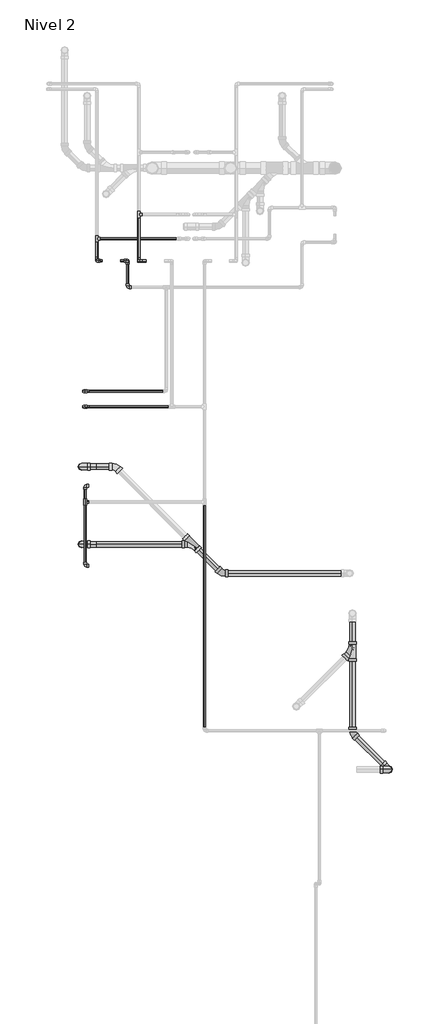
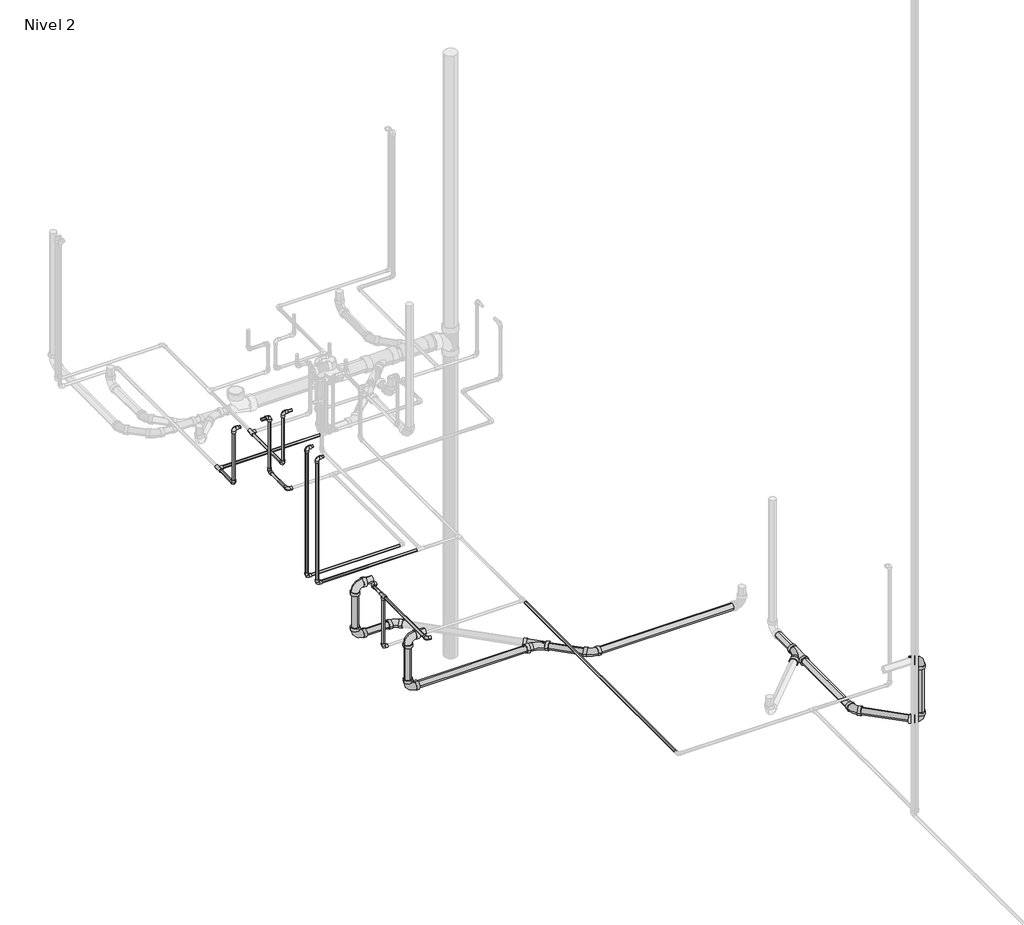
# One storey, part 6 of 9: 32 pipe segments, 28 pipe fittings.
"""IFC4 building model written with IfcOpenShell, lengths in millimetres."""

from ifc_helpers import new_model, si_unit, point, frame, frame_2d, origin, place, context, project, spatial, circle_curve, trimmed, segment, composite_curve, outline, extrude, transform, mapped, element, save
from components import pipe_fitting_ab418b84, pipe_fitting_0163322b, m_codo_pvc_serie_40_9ad74631, m_codo_pvc_serie_40_dwv1_5c0ec739, m_codo_pvc_serie_40_dwv1_6f1a2495

model = new_model("IFC4")

# Units and contexts
model_context = context("Model", 3, world=origin())
ifc_project = project(units=[si_unit("LENGTHUNIT", "METRE", prefix="MILLI")], contexts=[model_context])

# Site, building, storey
site = spatial("IfcSite", under=ifc_project)
building = spatial("IfcBuilding", under=site)
storey = spatial("IfcBuildingStorey", under=building, Name="Nivel 2", Elevation=2800.0)

# Pipe fittings
placement = place(None, origin())
pipe_fitting_shape = pipe_fitting_ab418b84(model_context)
element("IfcPipeFitting", 1, ObjectType="M_Te - PVC - Serie 40 : Estándar", at=placement, inside=storey, context=model_context, shape_type="MappedRepresentation", body=[
    mapped(pipe_fitting_shape, transform((3414.5674476, 13135.047678, 3200.0), x_axis=(0.0, -1.0, 0.0), y_axis=(0.0, 0.0, 1.0), z_axis=(-1.0, 0.0, 0.0))),
])
element("IfcPipeFitting", 2, ObjectType="M_Te - PVC - Serie 40 : Estándar", at=placement, inside=storey, context=model_context, shape_type="MappedRepresentation", body=[
    mapped(pipe_fitting_shape, transform((3940.052369, 15948.3784167, 2750.0), x_axis=(0.0, 1.0, 0.0), y_axis=(-1.0, 0.0, 0.0), z_axis=(0.0, 0.0, 1.0))),
])
element("IfcPipeFitting", 3, ObjectType="M_Te - PVC - Serie 40 : Estándar", at=placement, inside=storey, context=model_context, shape_type="MappedRepresentation", body=[
    mapped(pipe_fitting_shape, transform((3529.5674476, 15711.6215833, 2720.0), x_axis=(0.0, -1.0, 0.0), y_axis=(-1.0, 0.0, 0.0), z_axis=(0.0, 0.0, -1.0))),
])
pipe_fitting_2_shape = pipe_fitting_0163322b(model_context)
element("IfcPipeFitting", 4, ObjectType="M_Sanitario con te de reducción - PVC - Serie 40 - DWV : Estándar", at=placement, inside=storey, context=model_context, shape_type="MappedRepresentation", body=[
    mapped(pipe_fitting_2_shape, transform((6034.2551231, 11685.3518772, 2650.0), x_axis=(0.0, -1.0, 0.0), y_axis=(1.0, 0.0, 0.0), z_axis=(0.0, 0.0, 1.0))),
])
element("IfcPipeFitting", 5, ObjectType="M_Sanitario con te de reducción - PVC - Serie 40 - DWV : Estándar", at=placement, inside=storey, context=model_context, shape_type="MappedRepresentation", body=[
    mapped(pipe_fitting_2_shape, transform((4471.6264357, 12721.1279626, 2650.0), x_axis=(-0.7071067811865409, 0.7071067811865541, 0.0), y_axis=(0.7071067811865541, 0.7071067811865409, 0.0), z_axis=(0.0, 0.0, -1.0))),
])
m_codo_pvc_serie_40_shape = m_codo_pvc_serie_40_9ad74631(model_context)
element("IfcPipeFitting", 6, ObjectType="M_Codo - PVC - Serie 40 : Estándar", at=placement, inside=storey, context=model_context, shape_type="MappedRepresentation", body=[
    mapped(m_codo_pvc_serie_40_shape, transform((3414.5674476, 13135.047678, 2750.0), x_axis=(-1.0, 0.0, 0.0), y_axis=(0.0, 0.0, 1.0), z_axis=(0.0, 1.0, 0.0))),
])
element("IfcPipeFitting", 7, ObjectType="M_Codo - PVC - Serie 40 : Estándar", at=placement, inside=storey, context=model_context, shape_type="MappedRepresentation", body=[
    mapped(m_codo_pvc_serie_40_shape, transform((3414.5674476, 13295.047678, 3200.0), x_axis=(-1.0, 0.0, 0.0), y_axis=(0.0, -1.0, 0.0), z_axis=(0.0, 0.0, 1.0))),
])
element("IfcPipeFitting", 8, ObjectType="M_Codo - PVC - Serie 40 : Estándar", at=placement, inside=storey, context=model_context, shape_type="MappedRepresentation", body=[
    mapped(m_codo_pvc_serie_40_shape, transform((3414.5674476, 12509.5875218, 3200.0), x_axis=(0.0, -1.0, 0.0), y_axis=(1.0, 0.0, 0.0), z_axis=(0.0, 0.0, 1.0))),
])
element("IfcPipeFitting", 9, ObjectType="M_Codo - PVC - Serie 40 : Estándar", at=placement, inside=storey, context=model_context, shape_type="MappedRepresentation", body=[
    mapped(m_codo_pvc_serie_40_shape, transform((3940.052369, 15493.3784167, 2750.0), x_axis=(0.0, -1.0, 0.0), y_axis=(0.0, 0.0, 1.0), z_axis=(-1.0, 0.0, 0.0))),
])
element("IfcPipeFitting", 10, ObjectType="M_Codo - PVC - Serie 40 : Estándar", at=placement, inside=storey, context=model_context, shape_type="MappedRepresentation", body=[
    mapped(m_codo_pvc_serie_40_shape, transform((3940.052369, 15493.3784167, 3200.0), x_axis=(0.0, 0.0, 1.0), y_axis=(1.0, 0.0, 0.0), z_axis=(0.0, 1.0, 0.0))),
])
element("IfcPipeFitting", 11, ObjectType="M_Codo - PVC - Serie 40 : Estándar", at=placement, inside=storey, context=model_context, shape_type="MappedRepresentation", body=[
    mapped(m_codo_pvc_serie_40_shape, transform((3829.5674476, 15236.3878958, 2720.0), x_axis=(0.0, -1.0, 0.0), y_axis=(1.0, 0.0, 0.0), z_axis=(0.0, 0.0, 1.0))),
])
element("IfcPipeFitting", 12, ObjectType="M_Codo - PVC - Serie 40 : Estándar", at=placement, inside=storey, context=model_context, shape_type="MappedRepresentation", body=[
    mapped(m_codo_pvc_serie_40_shape, transform((3829.5674476, 15496.3878958, 2720.0), x_axis=(0.0, 1.0, 0.0), y_axis=(0.0, 0.0, 1.0), z_axis=(1.0, 0.0, 0.0))),
])
element("IfcPipeFitting", 13, ObjectType="M_Codo - PVC - Serie 40 : Estándar", at=placement, inside=storey, context=model_context, shape_type="MappedRepresentation", body=[
    mapped(m_codo_pvc_serie_40_shape, transform((3829.5674476, 15496.3878958, 3200.0), x_axis=(0.0, 0.0, 1.0), y_axis=(-1.0, 0.0, 0.0), z_axis=(0.0, -1.0, 0.0))),
])
element("IfcPipeFitting", 14, ObjectType="M_Codo - PVC - Serie 40 : Estándar", at=placement, inside=storey, context=model_context, shape_type="MappedRepresentation", body=[
    mapped(m_codo_pvc_serie_40_shape, transform((3529.5674476, 15496.3878958, 3200.0), x_axis=(-1.0, 0.0, 0.0), y_axis=(0.0, 0.0, -1.0), z_axis=(0.0, -1.0, 0.0))),
])
element("IfcPipeFitting", 15, ObjectType="M_Codo - PVC - Serie 40 : Estándar", at=placement, inside=storey, context=model_context, shape_type="MappedRepresentation", body=[
    mapped(m_codo_pvc_serie_40_shape, transform((3529.5674476, 15496.3878958, 2720.0), x_axis=(0.0, 0.0, -1.0), y_axis=(0.0, 1.0, 0.0), z_axis=(1.0, 0.0, 0.0))),
])
element("IfcPipeFitting", 16, ObjectType="M_Codo - PVC - Serie 40 : Estándar", at=placement, inside=storey, context=model_context, shape_type="MappedRepresentation", body=[
    mapped(m_codo_pvc_serie_40_shape, transform((3401.779854, 14218.3044589, 3850.0), x_axis=(-1.0, 0.0, 0.0), y_axis=(0.0, 0.0, -1.0), z_axis=(0.0, -1.0, 0.0))),
])
element("IfcPipeFitting", 17, ObjectType="M_Codo - PVC - Serie 40 : Estándar", at=placement, inside=storey, context=model_context, shape_type="MappedRepresentation", body=[
    mapped(m_codo_pvc_serie_40_shape, transform((3401.779854, 14068.3044589, 3850.0), x_axis=(-1.0, 0.0, 0.0), y_axis=(0.0, 0.0, -1.0), z_axis=(0.0, -1.0, 0.0))),
])
element("IfcPipeFitting", 18, ObjectType="M_Codo - PVC - Serie 40 : Estándar", at=placement, inside=storey, context=model_context, shape_type="MappedRepresentation", body=[
    mapped(m_codo_pvc_serie_40_shape, transform((3401.779854, 14218.3044589, 2720.0), x_axis=(0.0, 0.0, -1.0), y_axis=(1.0, 0.0, 0.0), z_axis=(0.0, -1.0, 0.0))),
])
element("IfcPipeFitting", 19, ObjectType="M_Codo - PVC - Serie 40 : Estándar", at=placement, inside=storey, context=model_context, shape_type="MappedRepresentation", body=[
    mapped(m_codo_pvc_serie_40_shape, transform((3401.779854, 14068.3044589, 2750.0), x_axis=(0.0, 0.0, -1.0), y_axis=(1.0, 0.0, 0.0), z_axis=(0.0, -1.0, 0.0))),
])
m_codo_pvc_serie_40_dwv1_shape = m_codo_pvc_serie_40_dwv1_5c0ec739(model_context)
element("IfcPipeFitting", 20, ObjectType="M_Codo - PVC - Serie 40 - DWV1 : Estándar 2", at=placement, inside=storey, context=model_context, shape_type="MappedRepresentation", body=[
    mapped(m_codo_pvc_serie_40_dwv1_shape, transform((6387.7966771, 10516.9594307, 3200.0), x_axis=(1.0, 0.0, 0.0), y_axis=(0.0, 0.0, -1.0), z_axis=(0.0, 1.0, 0.0))),
])
element("IfcPipeFitting", 21, ObjectType="M_Codo - PVC - Serie 40 - DWV1 : Estándar 2", at=placement, inside=storey, context=model_context, shape_type="MappedRepresentation", body=[
    mapped(m_codo_pvc_serie_40_dwv1_shape, transform((6387.7966771, 10516.9594307, 2650.0), x_axis=(0.0, 0.0, -1.0), y_axis=(-0.7071067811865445, 0.7071067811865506, 0.0), z_axis=(0.7071067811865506, 0.7071067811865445, 0.0))),
])
element("IfcPipeFitting", 22, ObjectType="M_Codo - PVC - Serie 40 - DWV1 : Estándar 2", at=placement, inside=storey, context=model_context, shape_type="MappedRepresentation", body=[
    mapped(m_codo_pvc_serie_40_dwv1_shape, transform((3380.4956461, 13481.1279626, 3100.0), x_axis=(-1.0, 0.0, 0.0), y_axis=(0.0, 0.0, -1.0), z_axis=(0.0, -1.0, 0.0))),
])
element("IfcPipeFitting", 23, ObjectType="M_Codo - PVC - Serie 40 - DWV1 : Estándar 2", at=placement, inside=storey, context=model_context, shape_type="MappedRepresentation", body=[
    mapped(m_codo_pvc_serie_40_dwv1_shape, transform((3380.4956461, 13481.1279626, 2650.0), x_axis=(0.0, 0.0, -1.0), y_axis=(1.0, 0.0, 0.0), z_axis=(0.0, -1.0, 0.0))),
])
element("IfcPipeFitting", 24, ObjectType="M_Codo - PVC - Serie 40 - DWV1 : Estándar 2", at=placement, inside=storey, context=model_context, shape_type="MappedRepresentation", body=[
    mapped(m_codo_pvc_serie_40_dwv1_shape, transform((3380.4956461, 12721.1279626, 3100.0), x_axis=(-1.0, 0.0, 0.0), y_axis=(0.0, 0.0, -1.0), z_axis=(0.0, -1.0, 0.0))),
])
element("IfcPipeFitting", 25, ObjectType="M_Codo - PVC - Serie 40 - DWV1 : Estándar 2", at=placement, inside=storey, context=model_context, shape_type="MappedRepresentation", body=[
    mapped(m_codo_pvc_serie_40_dwv1_shape, transform((3380.4956461, 12721.1279626, 2650.0), x_axis=(0.0, 0.0, -1.0), y_axis=(1.0, 0.0, 0.0), z_axis=(0.0, -1.0, 0.0))),
])
m_codo_pvc_serie_40_dwv1_2_shape = m_codo_pvc_serie_40_dwv1_6f1a2495(model_context)
element("IfcPipeFitting", 26, ObjectType="M_Codo - PVC - Serie 40 - DWV1 : Estándar 2", at=placement, inside=storey, context=model_context, shape_type="MappedRepresentation", body=[
    mapped(m_codo_pvc_serie_40_dwv1_2_shape, transform((6034.2551231, 10870.5009847, 2650.0), x_axis=(0.0, -1.0, 0.0), y_axis=(1.0, 0.0, 0.0), z_axis=(0.0, 0.0, 1.0))),
])
element("IfcPipeFitting", 27, ObjectType="M_Codo - PVC - Serie 40 - DWV1 : Estándar 2", at=placement, inside=storey, context=model_context, shape_type="MappedRepresentation", body=[
    mapped(m_codo_pvc_serie_40_dwv1_2_shape, transform((3711.6264357, 13481.1279626, 2650.0), x_axis=(-0.7071067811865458, 0.7071067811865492, 0.0), y_axis=(-0.7071067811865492, -0.7071067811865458, 0.0), z_axis=(0.0, 0.0, 1.0))),
])
element("IfcPipeFitting", 28, ObjectType="M_Codo - PVC - Serie 40 - DWV1 : Estándar 2", at=placement, inside=storey, context=model_context, shape_type="MappedRepresentation", body=[
    mapped(m_codo_pvc_serie_40_dwv1_2_shape, transform((4755.8120302, 12436.942368, 2650.0), x_axis=(0.7071067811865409, -0.7071067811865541, 0.0), y_axis=(0.7071067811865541, 0.7071067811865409, 0.0), z_axis=(0.0, 0.0, 1.0))),
])

# Pipe segments
element("IfcPipeSegment", 29, ObjectType="Tuberia PVC Agua Fria", at=placement, inside=storey, context=model_context, shape_type="SweptSolid", body=[
    extrude(outline(composite_curve([segment(trimmed(circle_curve(frame_2d((2750.0, 4584.5674476)), 10.31875), [point((2750.0, 4594.8861976))], [point((2760.31875, 4584.5674476))], False, "CARTESIAN"), True, "CONTINUOUS"), segment(trimmed(circle_curve(frame_2d((2750.0, 4584.5674476)), 10.31875), [point((2760.31875, 4584.5674476))], [point((2750.0, 4574.2486976))], False, "CARTESIAN"), True, "CONTINUOUS"), segment(trimmed(circle_curve(frame_2d((2750.0, 4584.5674476)), 10.31875), [point((2750.0, 4574.2486976))], [point((2739.68125, 4584.5674476))], False, "CARTESIAN"), True, "CONTINUOUS"), segment(trimmed(circle_curve(frame_2d((2750.0, 4584.5674476)), 10.31875), [point((2739.68125, 4584.5674476))], [point((2750.0, 4594.8861976))], False, "CARTESIAN"), True, "CONTINUOUS")], self_intersect=False)), frame((0.0, 10930.4191394, 0.0), z_axis=(0.0, 1.0, 0.0), x_axis=(0.0, 0.0, 1.0)), (0.0, 0.0, 1.0), 2174.1683824),
])
element("IfcPipeSegment", 30, ObjectType="Tuberia PVC Agua Fria", at=placement, inside=storey, context=model_context, shape_type="SweptSolid", body=[
    extrude(outline(composite_curve([segment(trimmed(circle_curve(frame_2d((3200.0, 3414.5674476)), 10.31875), [point((3200.0, 3424.8861976))], [point((3210.31875, 3414.5674476))], False, "CARTESIAN"), True, "CONTINUOUS"), segment(trimmed(circle_curve(frame_2d((3200.0, 3414.5674476)), 10.31875), [point((3210.31875, 3414.5674476))], [point((3200.0, 3404.2486976))], False, "CARTESIAN"), True, "CONTINUOUS"), segment(trimmed(circle_curve(frame_2d((3200.0, 3414.5674476)), 10.31875), [point((3200.0, 3404.2486976))], [point((3189.68125, 3414.5674476))], False, "CARTESIAN"), True, "CONTINUOUS"), segment(trimmed(circle_curve(frame_2d((3200.0, 3414.5674476)), 10.31875), [point((3189.68125, 3414.5674476))], [point((3200.0, 3424.8861976))], False, "CARTESIAN"), True, "CONTINUOUS")], self_intersect=False)), frame((0.0, 13165.5078343, 0.0), z_axis=(0.0, 1.0, 0.0), x_axis=(0.0, 0.0, 1.0)), (0.0, 0.0, 1.0), 96.1388438),
])
element("IfcPipeSegment", 31, ObjectType="Tuberia PVC Agua Fria", at=placement, inside=storey, context=model_context, shape_type="SweptSolid", body=[
    extrude(outline(composite_curve([segment(trimmed(circle_curve(frame_2d((3414.5674476, 13135.047678)), 10.31875), [point((3404.2486976, 13135.047678))], [point((3414.5674476, 13145.366428))], False, "CARTESIAN"), True, "CONTINUOUS"), segment(trimmed(circle_curve(frame_2d((3414.5674476, 13135.047678)), 10.31875), [point((3414.5674476, 13145.366428))], [point((3424.8861976, 13135.047678))], False, "CARTESIAN"), True, "CONTINUOUS"), segment(trimmed(circle_curve(frame_2d((3414.5674476, 13135.047678)), 10.31875), [point((3424.8861976, 13135.047678))], [point((3414.5674476, 13124.728928))], False, "CARTESIAN"), True, "CONTINUOUS"), segment(trimmed(circle_curve(frame_2d((3414.5674476, 13135.047678)), 10.31875), [point((3414.5674476, 13124.728928))], [point((3404.2486976, 13135.047678))], False, "CARTESIAN"), True, "CONTINUOUS")], self_intersect=False)), frame((0.0, 0.0, 2783.401), z_axis=(0.0, 0.0, 1.0), x_axis=(1.0, 0.0, 0.0)), (0.0, 0.0, 1.0), 386.1388438),
])
element("IfcPipeSegment", 32, ObjectType="Tuberia PVC Agua Fria", at=placement, inside=storey, context=model_context, shape_type="SweptSolid", body=[
    extrude(outline(composite_curve([segment(trimmed(circle_curve(frame_2d((3200.0, 3414.5674476)), 10.31875), [point((3200.0, 3404.2486976))], [point((3189.68125, 3414.5674476))], False, "CARTESIAN"), True, "CONTINUOUS"), segment(trimmed(circle_curve(frame_2d((3200.0, 3414.5674476)), 10.31875), [point((3189.68125, 3414.5674476))], [point((3200.0, 3424.8861976))], False, "CARTESIAN"), True, "CONTINUOUS"), segment(trimmed(circle_curve(frame_2d((3200.0, 3414.5674476)), 10.31875), [point((3200.0, 3424.8861976))], [point((3210.31875, 3414.5674476))], False, "CARTESIAN"), True, "CONTINUOUS"), segment(trimmed(circle_curve(frame_2d((3200.0, 3414.5674476)), 10.31875), [point((3210.31875, 3414.5674476))], [point((3200.0, 3404.2486976))], False, "CARTESIAN"), True, "CONTINUOUS")], self_intersect=False)), frame((0.0, 12542.9885218, 0.0), z_axis=(0.0, 1.0, 0.0), x_axis=(0.0, 0.0, 1.0)), (0.0, 0.0, 1.0), 561.599),
])
element("IfcPipeSegment", 33, ObjectType="Tuberia PVC Agua Fria", at=placement, inside=storey, context=model_context, shape_type="SweptSolid", body=[
    extrude(outline(composite_curve([segment(trimmed(circle_curve(frame_2d((2750.0, 3940.052369)), 10.31875), [point((2750.0, 3929.733619))], [point((2739.68125, 3940.052369))], False, "CARTESIAN"), True, "CONTINUOUS"), segment(trimmed(circle_curve(frame_2d((2750.0, 3940.052369)), 10.31875), [point((2739.68125, 3940.052369))], [point((2750.0, 3950.371119))], False, "CARTESIAN"), True, "CONTINUOUS"), segment(trimmed(circle_curve(frame_2d((2750.0, 3940.052369)), 10.31875), [point((2750.0, 3950.371119))], [point((2760.31875, 3940.052369))], False, "CARTESIAN"), True, "CONTINUOUS"), segment(trimmed(circle_curve(frame_2d((2750.0, 3940.052369)), 10.31875), [point((2760.31875, 3940.052369))], [point((2750.0, 3929.733619))], False, "CARTESIAN"), True, "CONTINUOUS")], self_intersect=False)), frame((0.0, 15526.7794167, 0.0), z_axis=(0.0, 1.0, 0.0), x_axis=(0.0, 0.0, 1.0)), (0.0, 0.0, 1.0), 391.1388438),
])
element("IfcPipeSegment", 34, ObjectType="Tuberia PVC Agua Fria", at=placement, inside=storey, context=model_context, shape_type="SweptSolid", body=[
    extrude(outline(composite_curve([segment(trimmed(circle_curve(frame_2d((3940.052369, 15493.3784167)), 10.31875), [point((3929.733619, 15493.3784167))], [point((3940.052369, 15503.6971667))], False, "CARTESIAN"), True, "CONTINUOUS"), segment(trimmed(circle_curve(frame_2d((3940.052369, 15493.3784167)), 10.31875), [point((3940.052369, 15503.6971667))], [point((3950.371119, 15493.3784167))], False, "CARTESIAN"), True, "CONTINUOUS"), segment(trimmed(circle_curve(frame_2d((3940.052369, 15493.3784167)), 10.31875), [point((3950.371119, 15493.3784167))], [point((3940.052369, 15483.0596667))], False, "CARTESIAN"), True, "CONTINUOUS"), segment(trimmed(circle_curve(frame_2d((3940.052369, 15493.3784167)), 10.31875), [point((3940.052369, 15483.0596667))], [point((3929.733619, 15493.3784167))], False, "CARTESIAN"), True, "CONTINUOUS")], self_intersect=False)), frame((0.0, 0.0, 2783.401), z_axis=(0.0, 0.0, 1.0), x_axis=(1.0, 0.0, 0.0)), (0.0, 0.0, 1.0), 383.198),
])
element("IfcPipeSegment", 35, ObjectType="Tuberia PVC Agua Fria", at=placement, inside=storey, context=model_context, shape_type="SweptSolid", body=[
    extrude(outline(composite_curve([segment(trimmed(circle_curve(frame_2d((15493.3784167, 3200.0)), 10.31875), [point((15483.0596667, 3200.0))], [point((15493.3784167, 3210.31875))], False, "CARTESIAN"), True, "CONTINUOUS"), segment(trimmed(circle_curve(frame_2d((15493.3784167, 3200.0)), 10.31875), [point((15493.3784167, 3210.31875))], [point((15503.6971667, 3200.0))], False, "CARTESIAN"), True, "CONTINUOUS"), segment(trimmed(circle_curve(frame_2d((15493.3784167, 3200.0)), 10.31875), [point((15503.6971667, 3200.0))], [point((15493.3784167, 3189.68125))], False, "CARTESIAN"), True, "CONTINUOUS"), segment(trimmed(circle_curve(frame_2d((15493.3784167, 3200.0)), 10.31875), [point((15493.3784167, 3189.68125))], [point((15483.0596667, 3200.0))], False, "CARTESIAN"), True, "CONTINUOUS")], self_intersect=False)), frame((3973.453369, 0.0, 0.0), z_axis=(1.0, 0.0, 0.0), x_axis=(0.0, 1.0, 0.0)), (0.0, 0.0, 1.0), 39.3897748),
])
element("IfcPipeSegment", 36, ObjectType="Tuberia PVC Agua Fria", at=placement, inside=storey, context=model_context, shape_type="SweptSolid", body=[
    extrude(outline(composite_curve([segment(trimmed(circle_curve(frame_2d((14068.3044589, 3850.0)), 10.31875), [point((14078.6232089, 3850.0))], [point((14068.3044589, 3839.68125))], False, "CARTESIAN"), True, "CONTINUOUS"), segment(trimmed(circle_curve(frame_2d((14068.3044589, 3850.0)), 10.31875), [point((14068.3044589, 3839.68125))], [point((14057.9857089, 3850.0))], False, "CARTESIAN"), True, "CONTINUOUS"), segment(trimmed(circle_curve(frame_2d((14068.3044589, 3850.0)), 10.31875), [point((14057.9857089, 3850.0))], [point((14068.3044589, 3860.31875))], False, "CARTESIAN"), True, "CONTINUOUS"), segment(trimmed(circle_curve(frame_2d((14068.3044589, 3850.0)), 10.31875), [point((14068.3044589, 3860.31875))], [point((14078.6232089, 3850.0))], False, "CARTESIAN"), True, "CONTINUOUS")], self_intersect=False)), frame((3435.180854, 0.0, 0.0), z_axis=(1.0, 0.0, 0.0), x_axis=(0.0, 1.0, 0.0)), (0.0, 0.0, 1.0), 17.224),
])
element("IfcPipeSegment", 37, ObjectType="Tuberia PVC Agua Fria", at=placement, inside=storey, context=model_context, shape_type="SweptSolid", body=[
    extrude(outline(composite_curve([segment(trimmed(circle_curve(frame_2d((14068.3044589, 2750.0)), 10.31875), [point((14078.6232089, 2750.0))], [point((14068.3044589, 2739.68125))], False, "CARTESIAN"), True, "CONTINUOUS"), segment(trimmed(circle_curve(frame_2d((14068.3044589, 2750.0)), 10.31875), [point((14068.3044589, 2739.68125))], [point((14057.9857089, 2750.0))], False, "CARTESIAN"), True, "CONTINUOUS"), segment(trimmed(circle_curve(frame_2d((14068.3044589, 2750.0)), 10.31875), [point((14057.9857089, 2750.0))], [point((14068.3044589, 2760.31875))], False, "CARTESIAN"), True, "CONTINUOUS"), segment(trimmed(circle_curve(frame_2d((14068.3044589, 2750.0)), 10.31875), [point((14068.3044589, 2760.31875))], [point((14078.6232089, 2750.0))], False, "CARTESIAN"), True, "CONTINUOUS")], self_intersect=False)), frame((3435.180854, 0.0, 0.0), z_axis=(1.0, 0.0, 0.0), x_axis=(0.0, 1.0, 0.0)), (0.0, 0.0, 1.0), 797.9929083),
])
element("IfcPipeSegment", 38, ObjectType="Tuberia PVC Agua Fria", at=placement, inside=storey, context=model_context, shape_type="SweptSolid", body=[
    extrude(outline(composite_curve([segment(trimmed(circle_curve(frame_2d((3401.779854, 14068.3044589)), 10.31875), [point((3412.098604, 14068.3044589))], [point((3401.779854, 14057.9857089))], False, "CARTESIAN"), True, "CONTINUOUS"), segment(trimmed(circle_curve(frame_2d((3401.779854, 14068.3044589)), 10.31875), [point((3401.779854, 14057.9857089))], [point((3391.461104, 14068.3044589))], False, "CARTESIAN"), True, "CONTINUOUS"), segment(trimmed(circle_curve(frame_2d((3401.779854, 14068.3044589)), 10.31875), [point((3391.461104, 14068.3044589))], [point((3401.779854, 14078.6232089))], False, "CARTESIAN"), True, "CONTINUOUS"), segment(trimmed(circle_curve(frame_2d((3401.779854, 14068.3044589)), 10.31875), [point((3401.779854, 14078.6232089))], [point((3412.098604, 14068.3044589))], False, "CARTESIAN"), True, "CONTINUOUS")], self_intersect=False)), frame((0.0, 0.0, 2783.401), z_axis=(0.0, 0.0, 1.0), x_axis=(1.0, 0.0, 0.0)), (0.0, 0.0, 1.0), 1033.198),
])
element("IfcPipeSegment", 39, ObjectType="Tuberia PVC Agua Caliente", at=placement, inside=storey, context=model_context, shape_type="SweptSolid", body=[
    extrude(outline(composite_curve([segment(trimmed(circle_curve(frame_2d((2720.0, 3829.5674476)), 10.31875), [point((2720.0, 3839.8861976))], [point((2730.31875, 3829.5674476))], False, "CARTESIAN"), True, "CONTINUOUS"), segment(trimmed(circle_curve(frame_2d((2720.0, 3829.5674476)), 10.31875), [point((2730.31875, 3829.5674476))], [point((2720.0, 3819.2486976))], False, "CARTESIAN"), True, "CONTINUOUS"), segment(trimmed(circle_curve(frame_2d((2720.0, 3829.5674476)), 10.31875), [point((2720.0, 3819.2486976))], [point((2709.68125, 3829.5674476))], False, "CARTESIAN"), True, "CONTINUOUS"), segment(trimmed(circle_curve(frame_2d((2720.0, 3829.5674476)), 10.31875), [point((2709.68125, 3829.5674476))], [point((2720.0, 3839.8861976))], False, "CARTESIAN"), True, "CONTINUOUS")], self_intersect=False)), frame((0.0, 15269.7888958, 0.0), z_axis=(0.0, 1.0, 0.0), x_axis=(0.0, 0.0, 1.0)), (0.0, 0.0, 1.0), 193.198),
])
element("IfcPipeSegment", 40, ObjectType="Tuberia PVC Agua Caliente", at=placement, inside=storey, context=model_context, shape_type="SweptSolid", body=[
    extrude(outline(composite_curve([segment(trimmed(circle_curve(frame_2d((15496.3878958, 3200.0)), 10.31875), [point((15506.7066458, 3200.0))], [point((15496.3878958, 3189.68125))], False, "CARTESIAN"), True, "CONTINUOUS"), segment(trimmed(circle_curve(frame_2d((15496.3878958, 3200.0)), 10.31875), [point((15496.3878958, 3189.68125))], [point((15486.0691458, 3200.0))], False, "CARTESIAN"), True, "CONTINUOUS"), segment(trimmed(circle_curve(frame_2d((15496.3878958, 3200.0)), 10.31875), [point((15486.0691458, 3200.0))], [point((15496.3878958, 3210.31875))], False, "CARTESIAN"), True, "CONTINUOUS"), segment(trimmed(circle_curve(frame_2d((15496.3878958, 3200.0)), 10.31875), [point((15496.3878958, 3210.31875))], [point((15506.7066458, 3200.0))], False, "CARTESIAN"), True, "CONTINUOUS")], self_intersect=False)), frame((3562.9684476, 0.0, 0.0), z_axis=(1.0, 0.0, 0.0), x_axis=(0.0, 1.0, 0.0)), (0.0, 0.0, 1.0), 19.5772433),
])
element("IfcPipeSegment", 41, ObjectType="Tuberia PVC Agua Caliente", at=placement, inside=storey, context=model_context, shape_type="SweptSolid", body=[
    extrude(outline(composite_curve([segment(trimmed(circle_curve(frame_2d((3829.5674476, 15496.3878958)), 10.31875), [point((3819.2486976, 15496.3878958))], [point((3829.5674476, 15506.7066458))], False, "CARTESIAN"), True, "CONTINUOUS"), segment(trimmed(circle_curve(frame_2d((3829.5674476, 15496.3878958)), 10.31875), [point((3829.5674476, 15506.7066458))], [point((3839.8861976, 15496.3878958))], False, "CARTESIAN"), True, "CONTINUOUS"), segment(trimmed(circle_curve(frame_2d((3829.5674476, 15496.3878958)), 10.31875), [point((3839.8861976, 15496.3878958))], [point((3829.5674476, 15486.0691458))], False, "CARTESIAN"), True, "CONTINUOUS"), segment(trimmed(circle_curve(frame_2d((3829.5674476, 15496.3878958)), 10.31875), [point((3829.5674476, 15486.0691458))], [point((3819.2486976, 15496.3878958))], False, "CARTESIAN"), True, "CONTINUOUS")], self_intersect=False)), frame((0.0, 0.0, 2753.401), z_axis=(0.0, 0.0, 1.0), x_axis=(1.0, 0.0, 0.0)), (0.0, 0.0, 1.0), 413.198),
])
element("IfcPipeSegment", 42, ObjectType="Tuberia PVC Agua Caliente", at=placement, inside=storey, context=model_context, shape_type="SweptSolid", body=[
    extrude(outline(composite_curve([segment(trimmed(circle_curve(frame_2d((3529.5674476, 15496.3878958)), 10.31875), [point((3539.8861976, 15496.3878958))], [point((3529.5674476, 15486.0691458))], False, "CARTESIAN"), True, "CONTINUOUS"), segment(trimmed(circle_curve(frame_2d((3529.5674476, 15496.3878958)), 10.31875), [point((3529.5674476, 15486.0691458))], [point((3519.2486976, 15496.3878958))], False, "CARTESIAN"), True, "CONTINUOUS"), segment(trimmed(circle_curve(frame_2d((3529.5674476, 15496.3878958)), 10.31875), [point((3519.2486976, 15496.3878958))], [point((3529.5674476, 15506.7066458))], False, "CARTESIAN"), True, "CONTINUOUS"), segment(trimmed(circle_curve(frame_2d((3529.5674476, 15496.3878958)), 10.31875), [point((3529.5674476, 15506.7066458))], [point((3539.8861976, 15496.3878958))], False, "CARTESIAN"), True, "CONTINUOUS")], self_intersect=False)), frame((0.0, 0.0, 2753.401), z_axis=(0.0, 0.0, 1.0), x_axis=(1.0, 0.0, 0.0)), (0.0, 0.0, 1.0), 413.198),
])
element("IfcPipeSegment", 43, ObjectType="Tuberia PVC Agua Caliente", at=placement, inside=storey, context=model_context, shape_type="SweptSolid", body=[
    extrude(outline(composite_curve([segment(trimmed(circle_curve(frame_2d((15711.6215833, 2720.0)), 10.31875), [point((15721.9403333, 2720.0))], [point((15711.6215833, 2709.68125))], False, "CARTESIAN"), True, "CONTINUOUS"), segment(trimmed(circle_curve(frame_2d((15711.6215833, 2720.0)), 10.31875), [point((15711.6215833, 2709.68125))], [point((15701.3028333, 2720.0))], False, "CARTESIAN"), True, "CONTINUOUS"), segment(trimmed(circle_curve(frame_2d((15711.6215833, 2720.0)), 10.31875), [point((15701.3028333, 2720.0))], [point((15711.6215833, 2730.31875))], False, "CARTESIAN"), True, "CONTINUOUS"), segment(trimmed(circle_curve(frame_2d((15711.6215833, 2720.0)), 10.31875), [point((15711.6215833, 2730.31875))], [point((15721.9403333, 2720.0))], False, "CARTESIAN"), True, "CONTINUOUS")], self_intersect=False)), frame((3560.0276039, 0.0, 0.0), z_axis=(1.0, 0.0, 0.0), x_axis=(0.0, 1.0, 0.0)), (0.0, 0.0, 1.0), 835.3737652),
])
element("IfcPipeSegment", 44, ObjectType="Tuberia PVC Agua Caliente", at=placement, inside=storey, context=model_context, shape_type="SweptSolid", body=[
    extrude(outline(composite_curve([segment(trimmed(circle_curve(frame_2d((2720.0, 3529.5674476)), 10.31875), [point((2720.0, 3539.8861976))], [point((2730.31875, 3529.5674476))], False, "CARTESIAN"), True, "CONTINUOUS"), segment(trimmed(circle_curve(frame_2d((2720.0, 3529.5674476)), 10.31875), [point((2730.31875, 3529.5674476))], [point((2720.0, 3519.2486976))], False, "CARTESIAN"), True, "CONTINUOUS"), segment(trimmed(circle_curve(frame_2d((2720.0, 3529.5674476)), 10.31875), [point((2720.0, 3519.2486976))], [point((2709.68125, 3529.5674476))], False, "CARTESIAN"), True, "CONTINUOUS"), segment(trimmed(circle_curve(frame_2d((2720.0, 3529.5674476)), 10.31875), [point((2709.68125, 3529.5674476))], [point((2720.0, 3539.8861976))], False, "CARTESIAN"), True, "CONTINUOUS")], self_intersect=False)), frame((0.0, 15529.7888958, 0.0), z_axis=(0.0, 1.0, 0.0), x_axis=(0.0, 0.0, 1.0)), (0.0, 0.0, 1.0), 151.3725313),
])
element("IfcPipeSegment", 45, ObjectType="Tuberia PVC Agua Caliente", at=placement, inside=storey, context=model_context, shape_type="SweptSolid", body=[
    extrude(outline(composite_curve([segment(trimmed(circle_curve(frame_2d((15496.3878958, 3200.0)), 10.31875), [point((15506.7066458, 3200.0))], [point((15496.3878958, 3189.68125))], False, "CARTESIAN"), True, "CONTINUOUS"), segment(trimmed(circle_curve(frame_2d((15496.3878958, 3200.0)), 10.31875), [point((15496.3878958, 3189.68125))], [point((15486.0691458, 3200.0))], False, "CARTESIAN"), True, "CONTINUOUS"), segment(trimmed(circle_curve(frame_2d((15496.3878958, 3200.0)), 10.31875), [point((15486.0691458, 3200.0))], [point((15496.3878958, 3210.31875))], False, "CARTESIAN"), True, "CONTINUOUS"), segment(trimmed(circle_curve(frame_2d((15496.3878958, 3200.0)), 10.31875), [point((15496.3878958, 3210.31875))], [point((15506.7066458, 3200.0))], False, "CARTESIAN"), True, "CONTINUOUS")], self_intersect=False)), frame((3760.5456909, 0.0, 0.0), z_axis=(1.0, 0.0, 0.0), x_axis=(0.0, 1.0, 0.0)), (0.0, 0.0, 1.0), 35.6207567),
])
element("IfcPipeSegment", 46, ObjectType="Tuberia PVC Agua Caliente", at=placement, inside=storey, context=model_context, shape_type="SweptSolid", body=[
    extrude(outline(composite_curve([segment(trimmed(circle_curve(frame_2d((14218.3044589, 3850.0)), 10.31875), [point((14228.6232089, 3850.0))], [point((14218.3044589, 3839.68125))], False, "CARTESIAN"), True, "CONTINUOUS"), segment(trimmed(circle_curve(frame_2d((14218.3044589, 3850.0)), 10.31875), [point((14218.3044589, 3839.68125))], [point((14207.9857089, 3850.0))], False, "CARTESIAN"), True, "CONTINUOUS"), segment(trimmed(circle_curve(frame_2d((14218.3044589, 3850.0)), 10.31875), [point((14207.9857089, 3850.0))], [point((14218.3044589, 3860.31875))], False, "CARTESIAN"), True, "CONTINUOUS"), segment(trimmed(circle_curve(frame_2d((14218.3044589, 3850.0)), 10.31875), [point((14218.3044589, 3860.31875))], [point((14228.6232089, 3850.0))], False, "CARTESIAN"), True, "CONTINUOUS")], self_intersect=False)), frame((3435.180854, 0.0, 0.0), z_axis=(1.0, 0.0, 0.0), x_axis=(0.0, 1.0, 0.0)), (0.0, 0.0, 1.0), 17.224),
])
element("IfcPipeSegment", 47, ObjectType="Tuberia PVC Agua Caliente", at=placement, inside=storey, context=model_context, shape_type="SweptSolid", body=[
    extrude(outline(composite_curve([segment(trimmed(circle_curve(frame_2d((14218.3044589, 2720.0)), 10.31875), [point((14228.6232089, 2720.0))], [point((14218.3044589, 2709.68125))], False, "CARTESIAN"), True, "CONTINUOUS"), segment(trimmed(circle_curve(frame_2d((14218.3044589, 2720.0)), 10.31875), [point((14218.3044589, 2709.68125))], [point((14207.9857089, 2720.0))], False, "CARTESIAN"), True, "CONTINUOUS"), segment(trimmed(circle_curve(frame_2d((14218.3044589, 2720.0)), 10.31875), [point((14207.9857089, 2720.0))], [point((14218.3044589, 2730.31875))], False, "CARTESIAN"), True, "CONTINUOUS"), segment(trimmed(circle_curve(frame_2d((14218.3044589, 2720.0)), 10.31875), [point((14218.3044589, 2730.31875))], [point((14228.6232089, 2720.0))], False, "CARTESIAN"), True, "CONTINUOUS")], self_intersect=False)), frame((3435.180854, 0.0, 0.0), z_axis=(1.0, 0.0, 0.0), x_axis=(0.0, 1.0, 0.0)), (0.0, 0.0, 1.0), 740.9855937),
])
element("IfcPipeSegment", 48, ObjectType="Tuberia PVC Agua Caliente", at=placement, inside=storey, context=model_context, shape_type="SweptSolid", body=[
    extrude(outline(composite_curve([segment(trimmed(circle_curve(frame_2d((3401.779854, 14218.3044589)), 10.31875), [point((3412.098604, 14218.3044589))], [point((3401.779854, 14207.9857089))], False, "CARTESIAN"), True, "CONTINUOUS"), segment(trimmed(circle_curve(frame_2d((3401.779854, 14218.3044589)), 10.31875), [point((3401.779854, 14207.9857089))], [point((3391.461104, 14218.3044589))], False, "CARTESIAN"), True, "CONTINUOUS"), segment(trimmed(circle_curve(frame_2d((3401.779854, 14218.3044589)), 10.31875), [point((3391.461104, 14218.3044589))], [point((3401.779854, 14228.6232089))], False, "CARTESIAN"), True, "CONTINUOUS"), segment(trimmed(circle_curve(frame_2d((3401.779854, 14218.3044589)), 10.31875), [point((3401.779854, 14228.6232089))], [point((3412.098604, 14218.3044589))], False, "CARTESIAN"), True, "CONTINUOUS")], self_intersect=False)), frame((0.0, 0.0, 2753.401), z_axis=(0.0, 0.0, 1.0), x_axis=(1.0, 0.0, 0.0)), (0.0, 0.0, 1.0), 1063.198),
])
element("IfcPipeSegment", 49, ObjectType="Tuberia PVC Sanitario", at=placement, inside=storey, context=model_context, shape_type="SweptSolid", body=[
    extrude(outline(composite_curve([segment(trimmed(circle_curve(frame_2d((6387.7966771, 10516.9594307)), 26.9875), [point((6414.7841771, 10516.9594307))], [point((6387.7966771, 10489.9719307))], False, "CARTESIAN"), True, "CONTINUOUS"), segment(trimmed(circle_curve(frame_2d((6387.7966771, 10516.9594307)), 26.9875), [point((6387.7966771, 10489.9719307))], [point((6360.8091771, 10516.9594307))], False, "CARTESIAN"), True, "CONTINUOUS"), segment(trimmed(circle_curve(frame_2d((6387.7966771, 10516.9594307)), 26.9875), [point((6360.8091771, 10516.9594307))], [point((6387.7966771, 10543.9469307))], False, "CARTESIAN"), True, "CONTINUOUS"), segment(trimmed(circle_curve(frame_2d((6387.7966771, 10516.9594307)), 26.9875), [point((6387.7966771, 10543.9469307))], [point((6414.7841771, 10516.9594307))], False, "CARTESIAN"), True, "CONTINUOUS")], self_intersect=False)), frame((0.0, 0.0, 2732.5420625), z_axis=(0.0, 0.0, 1.0), x_axis=(1.0, 0.0, 0.0)), (0.0, 0.0, 1.0), 384.915875),
])
element("IfcPipeSegment", 50, ObjectType="Tuberia PVC Sanitario", at=placement, inside=storey, context=model_context, shape_type="SweptSolid", body=[
    extrude(outline(composite_curve([segment(trimmed(circle_curve(frame_2d((0.0, -26.9875)), 26.9875), [point((-26.9875, -26.9875))], [point((0.0, 0.0))], False, "CARTESIAN"), True, "CONTINUOUS"), segment(trimmed(circle_curve(frame_2d((0.0, -26.9875)), 26.9875), [point((0.0, 0.0))], [point((26.9875001, -26.9875))], False, "CARTESIAN"), True, "CONTINUOUS"), segment(trimmed(circle_curve(frame_2d((0.0, -26.9875)), 26.9875), [point((26.9875001, -26.9875))], [point((0.0, -53.975))], False, "CARTESIAN"), True, "CONTINUOUS"), segment(trimmed(circle_curve(frame_2d((0.0, -26.9875)), 26.9875), [point((0.0, -53.975))], [point((-26.9875, -26.9875))], False, "CARTESIAN"), True, "CONTINUOUS")], self_intersect=False)), frame((6329.430625, 10575.3254828, 2623.0125), z_axis=(-0.7071067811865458, 0.7071067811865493, 0.0), x_axis=(0.7071067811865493, 0.7071067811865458, 0.0)), (0.0, 0.0, 1.0), 357.0130106),
])
element("IfcPipeSegment", 51, ObjectType="Tuberia PVC Sanitario", at=placement, inside=storey, context=model_context, shape_type="SweptSolid", body=[
    extrude(outline(composite_curve([segment(trimmed(circle_curve(frame_2d((2650.0, 6034.2551231)), 26.9875), [point((2650.0, 6061.2426231))], [point((2676.9875, 6034.2551231))], False, "CARTESIAN"), True, "CONTINUOUS"), segment(trimmed(circle_curve(frame_2d((2650.0, 6034.2551231)), 26.9875), [point((2676.9875, 6034.2551231))], [point((2650.0, 6007.2676231))], False, "CARTESIAN"), True, "CONTINUOUS"), segment(trimmed(circle_curve(frame_2d((2650.0, 6034.2551231)), 26.9875), [point((2650.0, 6007.2676231))], [point((2623.0125, 6034.2551231))], False, "CARTESIAN"), True, "CONTINUOUS"), segment(trimmed(circle_curve(frame_2d((2650.0, 6034.2551231)), 26.9875), [point((2623.0125, 6034.2551231))], [point((2650.0, 6061.2426231))], False, "CARTESIAN"), True, "CONTINUOUS")], self_intersect=False)), frame((0.0, 11765.286344, 0.0), z_axis=(0.0, 1.0, 0.0), x_axis=(0.0, 0.0, 1.0)), (0.0, 0.0, 1.0), 196.5136392),
])
element("IfcPipeSegment", 52, ObjectType="Tuberia PVC Sanitario", at=placement, inside=storey, context=model_context, shape_type="SweptSolid", body=[
    extrude(outline(composite_curve([segment(trimmed(circle_curve(frame_2d((2650.0, 6034.2551231)), 26.9875), [point((2650.0, 6061.2426231))], [point((2676.9875, 6034.2551231))], False, "CARTESIAN"), True, "CONTINUOUS"), segment(trimmed(circle_curve(frame_2d((2650.0, 6034.2551231)), 26.9875), [point((2676.9875, 6034.2551231))], [point((2650.0, 6007.2676231))], False, "CARTESIAN"), True, "CONTINUOUS"), segment(trimmed(circle_curve(frame_2d((2650.0, 6034.2551231)), 26.9875), [point((2650.0, 6007.2676231))], [point((2623.0125, 6034.2551231))], False, "CARTESIAN"), True, "CONTINUOUS"), segment(trimmed(circle_curve(frame_2d((2650.0, 6034.2551231)), 26.9875), [point((2623.0125, 6034.2551231))], [point((2650.0, 6061.2426231))], False, "CARTESIAN"), True, "CONTINUOUS")], self_intersect=False)), frame((0.0, 10930.9291722, 0.0), z_axis=(0.0, 1.0, 0.0), x_axis=(0.0, 0.0, 1.0)), (0.0, 0.0, 1.0), 645.5850982),
])
element("IfcPipeSegment", 53, ObjectType="Tuberia PVC Sanitario", at=placement, inside=storey, context=model_context, shape_type="SweptSolid", body=[
    extrude(outline(composite_curve([segment(trimmed(circle_curve(frame_2d((13481.1279626, 3100.0)), 26.9875), [point((13508.1154626, 3100.0))], [point((13481.1279626, 3073.0125))], False, "CARTESIAN"), True, "CONTINUOUS"), segment(trimmed(circle_curve(frame_2d((13481.1279626, 3100.0)), 26.9875), [point((13481.1279626, 3073.0125))], [point((13454.1404626, 3100.0))], False, "CARTESIAN"), True, "CONTINUOUS"), segment(trimmed(circle_curve(frame_2d((13481.1279626, 3100.0)), 26.9875), [point((13454.1404626, 3100.0))], [point((13481.1279626, 3126.9875))], False, "CARTESIAN"), True, "CONTINUOUS"), segment(trimmed(circle_curve(frame_2d((13481.1279626, 3100.0)), 26.9875), [point((13481.1279626, 3126.9875))], [point((13508.1154626, 3100.0))], False, "CARTESIAN"), True, "CONTINUOUS")], self_intersect=False)), frame((3463.0377086, 0.0, 0.0), z_axis=(1.0, 0.0, 0.0), x_axis=(0.0, 1.0, 0.0)), (0.0, 0.0, 1.0), 57.4579375),
])
element("IfcPipeSegment", 54, ObjectType="Tuberia PVC Sanitario", at=placement, inside=storey, context=model_context, shape_type="SweptSolid", body=[
    extrude(outline(composite_curve([segment(trimmed(circle_curve(frame_2d((3380.4956461, 13481.1279626)), 26.9875), [point((3407.4831461, 13481.1279626))], [point((3380.4956461, 13454.1404626))], False, "CARTESIAN"), True, "CONTINUOUS"), segment(trimmed(circle_curve(frame_2d((3380.4956461, 13481.1279626)), 26.9875), [point((3380.4956461, 13454.1404626))], [point((3353.5081461, 13481.1279626))], False, "CARTESIAN"), True, "CONTINUOUS"), segment(trimmed(circle_curve(frame_2d((3380.4956461, 13481.1279626)), 26.9875), [point((3353.5081461, 13481.1279626))], [point((3380.4956461, 13508.1154626))], False, "CARTESIAN"), True, "CONTINUOUS"), segment(trimmed(circle_curve(frame_2d((3380.4956461, 13481.1279626)), 26.9875), [point((3380.4956461, 13508.1154626))], [point((3407.4831461, 13481.1279626))], False, "CARTESIAN"), True, "CONTINUOUS")], self_intersect=False)), frame((0.0, 0.0, 2732.5420625), z_axis=(0.0, 0.0, 1.0), x_axis=(1.0, 0.0, 0.0)), (0.0, 0.0, 1.0), 284.915875),
])
element("IfcPipeSegment", 55, ObjectType="Tuberia PVC Sanitario", at=placement, inside=storey, context=model_context, shape_type="SweptSolid", body=[
    extrude(outline(composite_curve([segment(trimmed(circle_curve(frame_2d((12721.1279626, 3100.0)), 26.9875), [point((12748.1154626, 3100.0))], [point((12721.1279626, 3073.0125))], False, "CARTESIAN"), True, "CONTINUOUS"), segment(trimmed(circle_curve(frame_2d((12721.1279626, 3100.0)), 26.9875), [point((12721.1279626, 3073.0125))], [point((12694.1404626, 3100.0))], False, "CARTESIAN"), True, "CONTINUOUS"), segment(trimmed(circle_curve(frame_2d((12721.1279626, 3100.0)), 26.9875), [point((12694.1404626, 3100.0))], [point((12721.1279626, 3126.9875))], False, "CARTESIAN"), True, "CONTINUOUS"), segment(trimmed(circle_curve(frame_2d((12721.1279626, 3100.0)), 26.9875), [point((12721.1279626, 3126.9875))], [point((12748.1154626, 3100.0))], False, "CARTESIAN"), True, "CONTINUOUS")], self_intersect=False)), frame((3463.0377086, 0.0, 0.0), z_axis=(1.0, 0.0, 0.0), x_axis=(0.0, 1.0, 0.0)), (0.0, 0.0, 1.0), 57.4579375),
])
element("IfcPipeSegment", 56, ObjectType="Tuberia PVC Sanitario", at=placement, inside=storey, context=model_context, shape_type="SweptSolid", body=[
    extrude(outline(composite_curve([segment(trimmed(circle_curve(frame_2d((12721.1279626, 2650.0)), 26.9875), [point((12694.1404626, 2650.0))], [point((12721.1279626, 2676.9875))], False, "CARTESIAN"), True, "CONTINUOUS"), segment(trimmed(circle_curve(frame_2d((12721.1279626, 2650.0)), 26.9875), [point((12721.1279626, 2676.9875))], [point((12748.1154626, 2650.0))], False, "CARTESIAN"), True, "CONTINUOUS"), segment(trimmed(circle_curve(frame_2d((12721.1279626, 2650.0)), 26.9875), [point((12748.1154626, 2650.0))], [point((12721.1279626, 2623.0125))], False, "CARTESIAN"), True, "CONTINUOUS"), segment(trimmed(circle_curve(frame_2d((12721.1279626, 2650.0)), 26.9875), [point((12721.1279626, 2623.0125))], [point((12694.1404626, 2650.0))], False, "CARTESIAN"), True, "CONTINUOUS")], self_intersect=False)), frame((3463.0377086, 0.0, 0.0), z_axis=(1.0, 0.0, 0.0), x_axis=(0.0, 1.0, 0.0)), (0.0, 0.0, 1.0), 899.7511204),
])
element("IfcPipeSegment", 57, ObjectType="Tuberia PVC Sanitario", at=placement, inside=storey, context=model_context, shape_type="SweptSolid", body=[
    extrude(outline(composite_curve([segment(trimmed(circle_curve(frame_2d((3380.4956461, 12721.1279626)), 26.9875), [point((3407.4831461, 12721.1279626))], [point((3380.4956461, 12694.1404626))], False, "CARTESIAN"), True, "CONTINUOUS"), segment(trimmed(circle_curve(frame_2d((3380.4956461, 12721.1279626)), 26.9875), [point((3380.4956461, 12694.1404626))], [point((3353.5081461, 12721.1279626))], False, "CARTESIAN"), True, "CONTINUOUS"), segment(trimmed(circle_curve(frame_2d((3380.4956461, 12721.1279626)), 26.9875), [point((3353.5081461, 12721.1279626))], [point((3380.4956461, 12748.1154626))], False, "CARTESIAN"), True, "CONTINUOUS"), segment(trimmed(circle_curve(frame_2d((3380.4956461, 12721.1279626)), 26.9875), [point((3380.4956461, 12748.1154626))], [point((3407.4831461, 12721.1279626))], False, "CARTESIAN"), True, "CONTINUOUS")], self_intersect=False)), frame((0.0, 0.0, 2732.5420625), z_axis=(0.0, 0.0, 1.0), x_axis=(1.0, 0.0, 0.0)), (0.0, 0.0, 1.0), 284.915875),
])
element("IfcPipeSegment", 58, ObjectType="Tuberia PVC Sanitario", at=placement, inside=storey, context=model_context, shape_type="SweptSolid", body=[
    extrude(outline(composite_curve([segment(trimmed(circle_curve(frame_2d((12436.942368, 2650.0)), 26.9875), [point((12463.929868, 2650.0))], [point((12436.942368, 2623.0125))], False, "CARTESIAN"), True, "CONTINUOUS"), segment(trimmed(circle_curve(frame_2d((12436.942368, 2650.0)), 26.9875), [point((12436.942368, 2623.0125))], [point((12409.954868, 2650.0))], False, "CARTESIAN"), True, "CONTINUOUS"), segment(trimmed(circle_curve(frame_2d((12436.942368, 2650.0)), 26.9875), [point((12409.954868, 2650.0))], [point((12436.942368, 2676.9875))], False, "CARTESIAN"), True, "CONTINUOUS"), segment(trimmed(circle_curve(frame_2d((12436.942368, 2650.0)), 26.9875), [point((12436.942368, 2676.9875))], [point((12463.929868, 2650.0))], False, "CARTESIAN"), True, "CONTINUOUS")], self_intersect=False)), frame((4816.2402177, 0.0, 0.0), z_axis=(1.0, 0.0, 0.0), x_axis=(0.0, 1.0, 0.0)), (0.0, 0.0, 1.0), 1107.02975),
])
element("IfcPipeSegment", 59, ObjectType="Tuberia PVC Sanitario", at=placement, inside=storey, context=model_context, shape_type="SweptSolid", body=[
    extrude(outline(composite_curve([segment(trimmed(circle_curve(frame_2d((13481.1279626, 2650.0)), 26.9875), [point((13454.1404626, 2650.0))], [point((13481.1279626, 2676.9875))], False, "CARTESIAN"), True, "CONTINUOUS"), segment(trimmed(circle_curve(frame_2d((13481.1279626, 2650.0)), 26.9875), [point((13481.1279626, 2676.9875))], [point((13508.1154626, 2650.0))], False, "CARTESIAN"), True, "CONTINUOUS"), segment(trimmed(circle_curve(frame_2d((13481.1279626, 2650.0)), 26.9875), [point((13508.1154626, 2650.0))], [point((13481.1279626, 2623.0125))], False, "CARTESIAN"), True, "CONTINUOUS"), segment(trimmed(circle_curve(frame_2d((13481.1279626, 2650.0)), 26.9875), [point((13481.1279626, 2623.0125))], [point((13454.1404626, 2650.0))], False, "CARTESIAN"), True, "CONTINUOUS")], self_intersect=False)), frame((3463.0377086, 0.0, 0.0), z_axis=(1.0, 0.0, 0.0), x_axis=(0.0, 1.0, 0.0)), (0.0, 0.0, 1.0), 188.1605396),
])
element("IfcPipeSegment", 60, ObjectType="Tuberia PVC Sanitario", at=placement, inside=storey, context=model_context, shape_type="SweptSolid", body=[
    extrude(outline(composite_curve([segment(trimmed(circle_curve(frame_2d((0.0, -26.9875)), 26.9875), [point((-26.9875001, -26.9875))], [point((0.0, 0.0))], False, "CARTESIAN"), True, "CONTINUOUS"), segment(trimmed(circle_curve(frame_2d((0.0, -26.9875)), 26.9875), [point((0.0, 0.0))], [point((26.9875, -26.9875))], False, "CARTESIAN"), True, "CONTINUOUS"), segment(trimmed(circle_curve(frame_2d((0.0, -26.9875)), 26.9875), [point((26.9875, -26.9875))], [point((0.0, -53.975))], False, "CARTESIAN"), True, "CONTINUOUS"), segment(trimmed(circle_curve(frame_2d((0.0, -26.9875)), 26.9875), [point((0.0, -53.975))], [point((-26.9875001, -26.9875))], False, "CARTESIAN"), True, "CONTINUOUS")], self_intersect=False)), frame((4713.0828491, 12479.6715492, 2623.0125), z_axis=(-0.7071067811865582, 0.7071067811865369, 0.0), x_axis=(0.7071067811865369, 0.7071067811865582, 0.0)), (0.0, 0.0, 1.0), 261.5364678),
])

save(model, "model.ifc")
